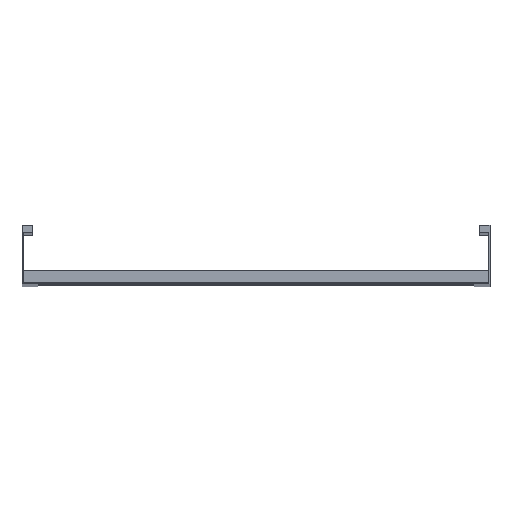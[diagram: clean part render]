
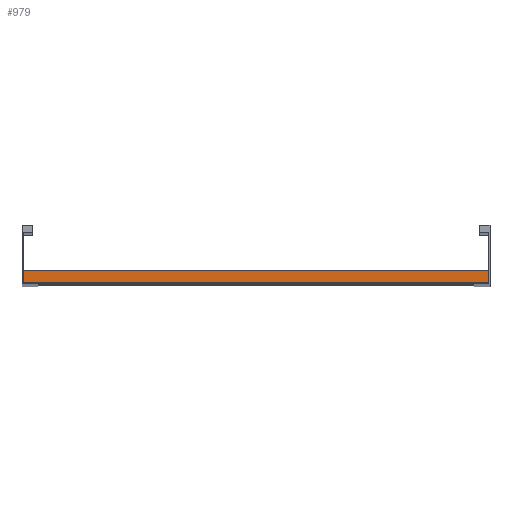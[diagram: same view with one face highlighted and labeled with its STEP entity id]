
A CAD part, top view. The second image highlights one B-rep face of the part: STEP entity #979.
In plain terms, the highlighted planar face has unit normal (0, 0, 1).
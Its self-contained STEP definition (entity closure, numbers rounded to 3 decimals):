
#24 = EDGE_CURVE ( 'NONE', #1458, #515, #750, .T. ) ;
#65 = DIRECTION ( 'NONE',  ( -1., 0., 0. ) ) ;
#82 = LINE ( 'NONE', #1250, #596 ) ;
#113 = VERTEX_POINT ( 'NONE', #1577 ) ;
#207 = CARTESIAN_POINT ( 'NONE',  ( 398., 20., 20.25 ) ) ;
#332 = LINE ( 'NONE', #207, #1316 ) ;
#447 = EDGE_LOOP ( 'NONE', ( #827, #1141, #898, #457 ) ) ;
#457 = ORIENTED_EDGE ( 'NONE', *, *, #1034, .T. ) ;
#495 = DIRECTION ( 'NONE',  ( 0., -1., 0. ) ) ;
#515 = VERTEX_POINT ( 'NONE', #564 ) ;
#564 = CARTESIAN_POINT ( 'NONE',  ( -398., 0., 20.25 ) ) ;
#596 = VECTOR ( 'NONE', #857, 1000. ) ;
#625 = EDGE_CURVE ( 'NONE', #113, #1341, #82, .T. ) ;
#645 = DIRECTION ( 'NONE',  ( 0., 0., -1. ) ) ;
#684 = AXIS2_PLACEMENT_3D ( 'NONE', #1304, #645, #1188 ) ;
#713 = CARTESIAN_POINT ( 'NONE',  ( -398., 20., 20.25 ) ) ;
#750 = LINE ( 'NONE', #1590, #1421 ) ;
#780 = PLANE ( 'NONE',  #684 ) ;
#827 = ORIENTED_EDGE ( 'NONE', *, *, #24, .T. ) ;
#845 = CARTESIAN_POINT ( 'NONE',  ( 398., 0., 20.25 ) ) ;
#857 = DIRECTION ( 'NONE',  ( 0., -1., 0. ) ) ;
#898 = ORIENTED_EDGE ( 'NONE', *, *, #625, .F. ) ;
#959 = LINE ( 'NONE', #845, #1637 ) ;
#979 = ADVANCED_FACE ( 'NONE', ( #1215 ), #780, .F. ) ;
#1034 = EDGE_CURVE ( 'NONE', #113, #1458, #332, .T. ) ;
#1141 = ORIENTED_EDGE ( 'NONE', *, *, #1461, .F. ) ;
#1188 = DIRECTION ( 'NONE',  ( 0., 1., 0. ) ) ;
#1215 = FACE_OUTER_BOUND ( 'NONE', #447, .T. ) ;
#1250 = CARTESIAN_POINT ( 'NONE',  ( 398., 20., 20.25 ) ) ;
#1304 = CARTESIAN_POINT ( 'NONE',  ( 398., 20., 20.25 ) ) ;
#1316 = VECTOR ( 'NONE', #1507, 1000. ) ;
#1341 = VERTEX_POINT ( 'NONE', #1583 ) ;
#1421 = VECTOR ( 'NONE', #495, 1000. ) ;
#1458 = VERTEX_POINT ( 'NONE', #713 ) ;
#1461 = EDGE_CURVE ( 'NONE', #1341, #515, #959, .T. ) ;
#1507 = DIRECTION ( 'NONE',  ( -1., 0., 0. ) ) ;
#1577 = CARTESIAN_POINT ( 'NONE',  ( 398., 20., 20.25 ) ) ;
#1583 = CARTESIAN_POINT ( 'NONE',  ( 398., 0., 20.25 ) ) ;
#1590 = CARTESIAN_POINT ( 'NONE',  ( -398., 20., 20.25 ) ) ;
#1637 = VECTOR ( 'NONE', #65, 1000. ) ;
